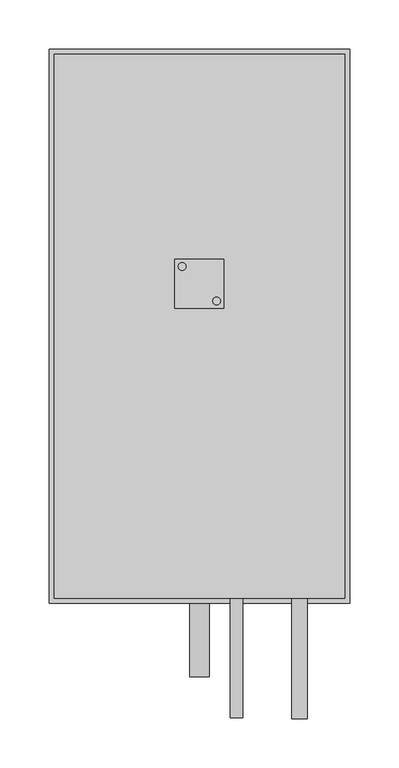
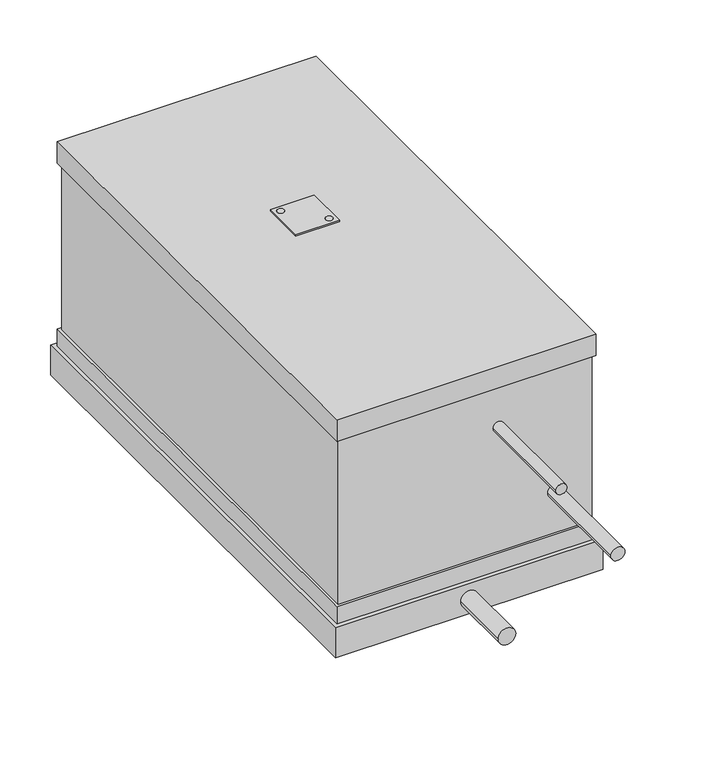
"""IFC4 building model written with IfcOpenShell, lengths in millimetres: proxy geometry, KORF_Воздухоохладитель_Фреоновый_FLO_Левый : FLO 40-20."""

from ifc_helpers import new_model, si_unit, point, frame, frame_2d, origin, place, context, project, spatial, polyline, circle_curve, trimmed, segment, composite_curve, outline, extrude, faceted_brep, source, transform, mapped, element, save


def mechanical_equipment_ddcf3e9b(model_context):
    return source(origin(), model_context, "Body", "SolidModel", [
        extrude(outline(composite_curve([segment(trimmed(circle_curve(frame_2d((170.5727066, -17.5745746)), 4.0), [point((174.5727066, -17.5745746))], [point((166.5727066, -17.5745746))], False, "CARTESIAN"), True, "CONTINUOUS"), segment(trimmed(circle_curve(frame_2d((170.5727066, -17.5745746)), 4.0), [point((166.5727066, -17.5745746))], [point((174.5727066, -17.5745746))], False, "CARTESIAN"), True, "CONTINUOUS")], self_intersect=False)), frame((0.0, 0.0, 126.0), z_axis=(0.0, 0.0, 1.0), x_axis=(1.0, 0.0, 0.0)), (0.0, 0.0, 1.0), 2.0),
        extrude(outline(composite_curve([segment(trimmed(circle_curve(frame_2d((135.4272934, 17.5745746)), 4.0), [point((131.4272934, 17.5745746))], [point((139.4272934, 17.5745746))], False, "CARTESIAN"), True, "CONTINUOUS"), segment(trimmed(circle_curve(frame_2d((135.4272934, 17.5745746)), 4.0), [point((139.4272934, 17.5745746))], [point((131.4272934, 17.5745746))], False, "CARTESIAN"), True, "CONTINUOUS")], self_intersect=False)), frame((0.0, 0.0, 126.0), z_axis=(0.0, 0.0, 1.0), x_axis=(1.0, 0.0, 0.0)), (0.0, 0.0, 1.0), 2.0),
        extrude(outline(polyline([(128.0, -25.0), (128.0, 25.0), (178.0, 25.0), (178.0, -25.0), (128.0, -25.0)]), holes=[composite_curve([segment(trimmed(circle_curve(frame_2d((170.5727066, -17.5745746)), 4.0), [point((174.5727066, -17.5745746))], [point((166.5727066, -17.5745746))], True, "CARTESIAN"), True, "CONTINUOUS"), segment(trimmed(circle_curve(frame_2d((170.5727066, -17.5745746)), 4.0), [point((166.5727066, -17.5745746))], [point((174.5727066, -17.5745746))], True, "CARTESIAN"), True, "CONTINUOUS")], self_intersect=False), composite_curve([segment(trimmed(circle_curve(frame_2d((135.4272934, 17.5745746)), 4.0), [point((131.4272934, 17.5745746))], [point((139.4272934, 17.5745746))], True, "CARTESIAN"), True, "CONTINUOUS"), segment(trimmed(circle_curve(frame_2d((135.4272934, 17.5745746)), 4.0), [point((139.4272934, 17.5745746))], [point((131.4272934, 17.5745746))], True, "CARTESIAN"), True, "CONTINUOUS")], self_intersect=False)]), frame((0.0, 0.0, 126.0), z_axis=(0.0, 0.0, 1.0), x_axis=(1.0, 0.0, 0.0)), (0.0, 0.0, 1.0), 2.0),
        faceted_brep([(306.0, -325.0, -121.0), (306.0, -325.0, -157.0), (306.0, 239.0, -157.0), (306.0, 239.0, -121.0), (0.0, -325.0, -121.0), (0.0, 239.0, -121.0), (0.0, 239.0, -157.0), (0.0, -325.0, -157.0), (301.0, 234.0, -121.0), (301.0, -320.0, -121.0), (5.0, -320.0, -121.0), (5.0, 234.0, -121.0), (298.0, -317.0, 100.0), (298.0, -317.0, -100.0), (298.0, -200.0, -100.0), (298.0, 200.0, -100.0), (298.0, 231.0, -100.0), (298.0, 231.0, 100.0), (298.0, 200.0, 100.0), (298.0, -200.0, 100.0), (8.0, 231.0, 100.0), (8.0, 231.0, -100.0), (8.0, 200.0, -100.0), (8.0, -200.0, -100.0), (8.0, -317.0, -100.0), (8.0, -317.0, 100.0), (8.0, -200.0, 100.0), (8.0, 200.0, 100.0), (301.0, -320.0, 100.0), (301.0, 234.0, 100.0), (301.0, 234.0, 126.0), (301.0, -320.0, 126.0), (301.0, -320.0, -100.0), (301.0, 234.0, -100.0), (5.0, -320.0, 100.0), (5.0, -320.0, 126.0), (5.0, 234.0, 126.0), (5.0, 234.0, 100.0), (5.0, -320.0, -100.0), (5.0, 234.0, -100.0)], [[[0, 1, 2, 3]], [[4, 5, 6, 7]], [[1, 0, 4, 7]], [[2, 1, 7, 6]], [[3, 2, 6, 5]], [[0, 3, 5, 4], [8, 9, 10, 11]], [[12, 13, 14, 15, 16, 17, 18, 19]], [[20, 21, 22, 23, 24, 25, 26, 27]], [[13, 12, 25, 24]], [[17, 16, 21, 20]], [[28, 29, 30, 31]], [[32, 9, 8, 33]], [[34, 35, 36, 37]], [[38, 39, 11, 10]], [[29, 28, 34, 37], [12, 19, 18, 17, 20, 27, 26, 25]], [[30, 29, 37, 36]], [[31, 30, 36, 35]], [[28, 31, 35, 34]], [[9, 32, 38, 10]], [[33, 8, 11, 39]], [[32, 33, 39, 38], [14, 13, 24, 23, 22, 21, 16, 15]]]),
        extrude(outline(composite_curve([segment(trimmed(circle_curve(frame_2d((-49.0, 255.0)), 7.94), [point((-49.0, 247.06))], [point((-49.0, 262.94))], False, "CARTESIAN"), True, "CONTINUOUS"), segment(trimmed(circle_curve(frame_2d((-49.0, 255.0)), 7.94), [point((-49.0, 262.94))], [point((-49.0, 247.06))], False, "CARTESIAN"), True, "CONTINUOUS")], self_intersect=False)), frame((0.0, -443.0, 0.0), z_axis=(0.0, 1.0, 0.0), x_axis=(0.0, 0.0, 1.0)), (0.0, 0.0, 1.0), 126.0),
        extrude(outline(composite_curve([segment(trimmed(circle_curve(frame_2d((51.0, 191.0)), 6.35), [point((51.0, 184.65))], [point((51.0, 197.35))], False, "CARTESIAN"), True, "CONTINUOUS"), segment(trimmed(circle_curve(frame_2d((51.0, 191.0)), 6.35), [point((51.0, 197.35))], [point((51.0, 184.65))], False, "CARTESIAN"), True, "CONTINUOUS")], self_intersect=False)), frame((0.0, -442.0, 0.0), z_axis=(0.0, 1.0, 0.0), x_axis=(0.0, 0.0, 1.0)), (0.0, 0.0, 1.0), 125.0),
        extrude(outline(composite_curve([segment(trimmed(circle_curve(frame_2d((-139.0, 153.0)), 10.0), [point((-139.0, 143.0))], [point((-139.0, 163.0))], False, "CARTESIAN"), True, "CONTINUOUS"), segment(trimmed(circle_curve(frame_2d((-139.0, 153.0)), 10.0), [point((-139.0, 163.0))], [point((-139.0, 143.0))], False, "CARTESIAN"), True, "CONTINUOUS")], self_intersect=False)), frame((0.0, -400.0, 0.0), z_axis=(0.0, 1.0, 0.0), x_axis=(0.0, 0.0, 1.0)), (0.0, 0.0, 1.0), 75.0),
    ])


if __name__ == "__main__":
    model = new_model("IFC4")
    model_context = context("Model", 3, world=origin())
    ifc_project = project(units=[si_unit("LENGTHUNIT", "METRE", prefix="MILLI")], contexts=[model_context])
    site = spatial("IfcSite", under=ifc_project)
    building = spatial("IfcBuilding", under=site)
    placement = place(None, origin())
    mechanical_equipment_shape = mechanical_equipment_ddcf3e9b(model_context)
    element("IfcBuildingElementProxy", 1, Name="KORF_Воздухоохладитель_Фреоновый_FLO_Левый : FLO 40-20", ObjectType="KORF_Воздухоохладитель_Фреоновый_FLO_Левый : FLO 40-20", at=placement, inside=building, context=model_context, shape_type="MappedRepresentation", body=[
        mapped(mechanical_equipment_shape, transform((0.0, 0.0, 0.0), x_axis=(1.0, 0.0, 0.0), y_axis=(0.0, 1.0, 0.0), z_axis=(0.0, 0.0, 1.0))),
    ])
    save(model, "model.ifc")
